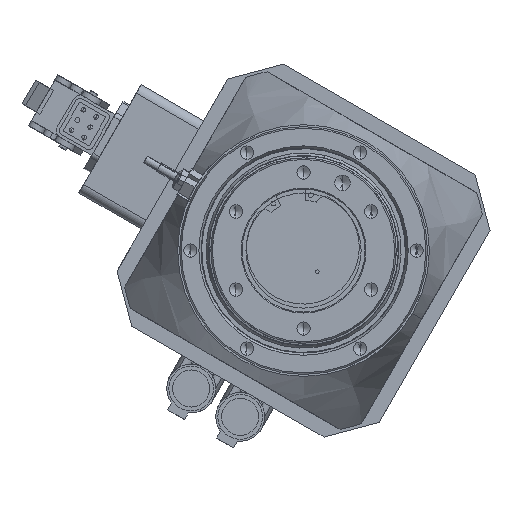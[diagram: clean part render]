
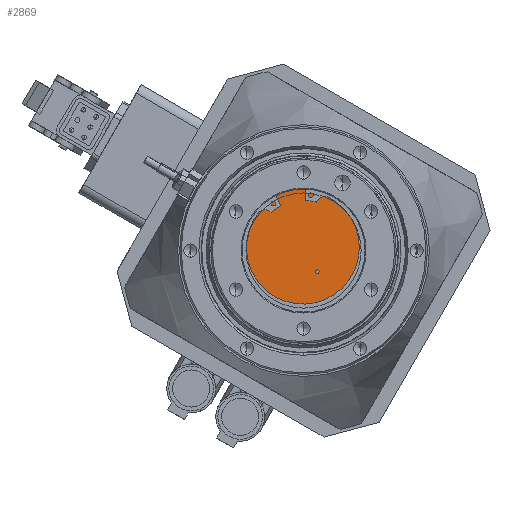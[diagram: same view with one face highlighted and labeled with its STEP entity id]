
A CAD part, front view. The second image highlights one B-rep face of the part: STEP entity #2869.
In plain terms, the highlighted planar face has unit normal (0, -1, 0).
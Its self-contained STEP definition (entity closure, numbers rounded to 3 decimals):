
#164 = DIRECTION ( 'NONE',  ( 0., 1., 0. ) ) ;
#1536 = CIRCLE ( 'NONE', #12588, 1. ) ;
#2471 = CARTESIAN_POINT ( 'NONE',  ( 71.219, -247.879, 97.194 ) ) ;
#2869 = ADVANCED_FACE ( 'NONE', ( #10433, #3633 ), #26071, .F. ) ;
#3633 = FACE_BOUND ( 'NONE', #8492, .T. ) ;
#4186 = DIRECTION ( 'NONE',  ( 0., 1., 0. ) ) ;
#4387 = CARTESIAN_POINT ( 'NONE',  ( 78.16, -247.879, 85.367 ) ) ;
#4801 = VERTEX_POINT ( 'NONE', #17772 ) ;
#5410 = DIRECTION ( 'NONE',  ( 0., 0., 1. ) ) ;
#7144 = AXIS2_PLACEMENT_3D ( 'NONE', #21457, #4186, #24356 ) ;
#8492 = EDGE_LOOP ( 'NONE', ( #26031, #20750 ) ) ;
#9409 = VERTEX_POINT ( 'NONE', #23045 ) ;
#9811 = VERTEX_POINT ( 'NONE', #14403 ) ;
#10087 = AXIS2_PLACEMENT_3D ( 'NONE', #28960, #164, #20368 ) ;
#10433 = FACE_OUTER_BOUND ( 'NONE', #15619, .T. ) ;
#11406 = VERTEX_POINT ( 'NONE', #4387 ) ;
#11473 = CIRCLE ( 'NONE', #13693, 31.5 ) ;
#11784 = CIRCLE ( 'NONE', #36732, 31.5 ) ;
#12588 = AXIS2_PLACEMENT_3D ( 'NONE', #30992, #13717, #33863 ) ;
#13213 = CIRCLE ( 'NONE', #7144, 1. ) ;
#13275 = CARTESIAN_POINT ( 'NONE',  ( 71.219, -247.879, 97.194 ) ) ;
#13693 = AXIS2_PLACEMENT_3D ( 'NONE', #13275, #33401, #16145 ) ;
#13717 = DIRECTION ( 'NONE',  ( 0., 1., 0. ) ) ;
#14403 = CARTESIAN_POINT ( 'NONE',  ( 71.219, -247.879, 65.694 ) ) ;
#15619 = EDGE_LOOP ( 'NONE', ( #32203, #25440 ) ) ;
#15645 = EDGE_CURVE ( 'NONE', #9811, #9409, #11473, .T. ) ;
#16145 = DIRECTION ( 'NONE',  ( 0., 0., 1. ) ) ;
#17772 = CARTESIAN_POINT ( 'NONE',  ( 78.16, -247.879, 87.367 ) ) ;
#19296 = EDGE_CURVE ( 'NONE', #11406, #4801, #1536, .T. ) ;
#20368 = DIRECTION ( 'NONE',  ( 0., 0., 1. ) ) ;
#20750 = ORIENTED_EDGE ( 'NONE', *, *, #34329, .T. ) ;
#21457 = CARTESIAN_POINT ( 'NONE',  ( 78.16, -247.879, 86.367 ) ) ;
#22683 = DIRECTION ( 'NONE',  ( 0., 1., 0. ) ) ;
#23045 = CARTESIAN_POINT ( 'NONE',  ( 71.219, -247.879, 128.694 ) ) ;
#24356 = DIRECTION ( 'NONE',  ( 0., 0., 1. ) ) ;
#25440 = ORIENTED_EDGE ( 'NONE', *, *, #30921, .F. ) ;
#26031 = ORIENTED_EDGE ( 'NONE', *, *, #19296, .T. ) ;
#26071 = PLANE ( 'NONE',  #10087 ) ;
#28960 = CARTESIAN_POINT ( 'NONE',  ( 71.219, -247.879, 97.194 ) ) ;
#30921 = EDGE_CURVE ( 'NONE', #9409, #9811, #11784, .T. ) ;
#30992 = CARTESIAN_POINT ( 'NONE',  ( 78.16, -247.879, 86.367 ) ) ;
#32203 = ORIENTED_EDGE ( 'NONE', *, *, #15645, .F. ) ;
#33401 = DIRECTION ( 'NONE',  ( 0., 1., 0. ) ) ;
#33863 = DIRECTION ( 'NONE',  ( 0., 0., 1. ) ) ;
#34329 = EDGE_CURVE ( 'NONE', #4801, #11406, #13213, .T. ) ;
#36732 = AXIS2_PLACEMENT_3D ( 'NONE', #2471, #22683, #5410 ) ;
